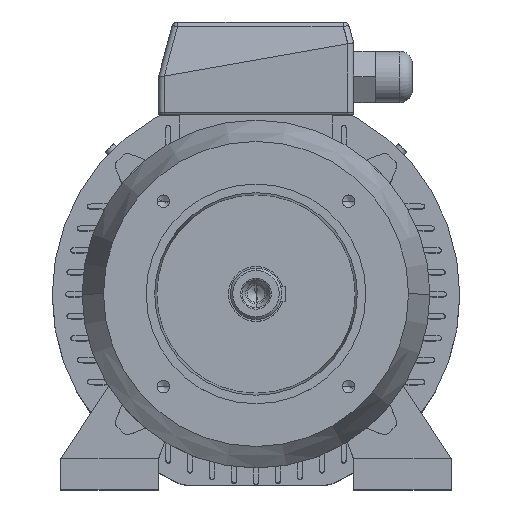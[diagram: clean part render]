
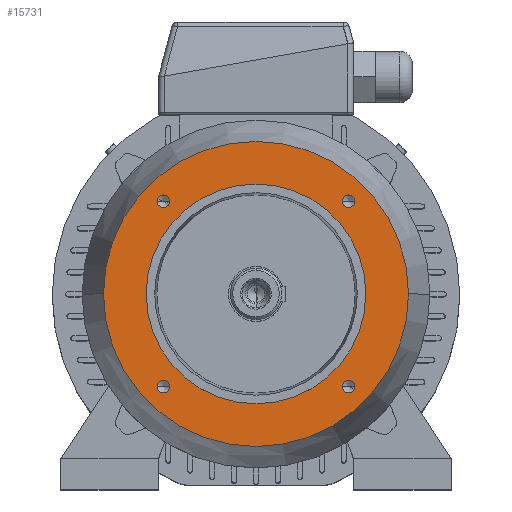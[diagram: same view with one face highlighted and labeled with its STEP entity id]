
A CAD part, top view. The second image highlights one B-rep face of the part: STEP entity #15731.
In plain terms, the highlighted planar face has unit normal (0, 0, 1).
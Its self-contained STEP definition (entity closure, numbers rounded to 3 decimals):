
#627 = VERTEX_POINT ( 'NONE', #10991 ) ;
#670 = VERTEX_POINT ( 'NONE', #11009 ) ;
#1187 = CIRCLE ( 'NONE', #1188, 5.1 ) ;
#1188 = AXIS2_PLACEMENT_3D ( 'NONE', #1189, #1190, #1191 ) ;
#1189 = CARTESIAN_POINT ( 'NONE',  ( 76.014, 76.014, 75. ) ) ;
#1190 = DIRECTION ( 'NONE',  ( 0., 0., 1. ) ) ;
#1191 = DIRECTION ( 'NONE',  ( 1., 0., 0. ) ) ;
#1368 = CIRCLE ( 'NONE', #1369, 5.1 ) ;
#1369 = AXIS2_PLACEMENT_3D ( 'NONE', #1370, #1371, #1372 ) ;
#1370 = CARTESIAN_POINT ( 'NONE',  ( 76.014, -76.014, 75. ) ) ;
#1371 = DIRECTION ( 'NONE',  ( 0., 0., 1. ) ) ;
#1372 = DIRECTION ( 'NONE',  ( 1., 0., 0. ) ) ;
#1389 = CIRCLE ( 'NONE', #1390, 5.1 ) ;
#1390 = AXIS2_PLACEMENT_3D ( 'NONE', #1391, #1392, #1393 ) ;
#1391 = CARTESIAN_POINT ( 'NONE',  ( -76.014, 76.014, 75. ) ) ;
#1392 = DIRECTION ( 'NONE',  ( 0., 0., 1. ) ) ;
#1393 = DIRECTION ( 'NONE',  ( 1., 0., 0. ) ) ;
#1467 = VERTEX_POINT ( 'NONE', #11398 ) ;
#1548 = VERTEX_POINT ( 'NONE', #11432 ) ;
#1729 = VERTEX_POINT ( 'NONE', #11543 ) ;
#1812 = EDGE_CURVE ( 'NONE', #2817, #1548, #11566, .T. ) ;
#1974 = EDGE_CURVE ( 'NONE', #1729, #1467, #11632, .T. ) ;
#2492 = FACE_BOUND ( 'NONE', #2536, .T. ) ;
#2493 = FACE_BOUND ( 'NONE', #9758, .T. ) ;
#2494 = FACE_BOUND ( 'NONE', #10412, .T. ) ;
#2495 = FACE_BOUND ( 'NONE', #9185, .T. ) ;
#2500 = FACE_BOUND ( 'NONE', #9543, .T. ) ;
#2501 = FACE_OUTER_BOUND ( 'NONE', #10084, .T. ) ;
#2502 = PLANE ( 'NONE',  #2503 ) ;
#2503 = AXIS2_PLACEMENT_3D ( 'NONE', #2504, #2505, #2506 ) ;
#2504 = CARTESIAN_POINT ( 'NONE',  ( 0., 125., 75. ) ) ;
#2505 = DIRECTION ( 'NONE',  ( 0., 0., -1. ) ) ;
#2506 = DIRECTION ( 'NONE',  ( -1., 0., 0. ) ) ;
#2536 = EDGE_LOOP ( 'NONE', ( #9525, #8302 ) ) ;
#2817 = VERTEX_POINT ( 'NONE', #14089 ) ;
#2911 = CIRCLE ( 'NONE', #2915, 5.1 ) ;
#2915 = AXIS2_PLACEMENT_3D ( 'NONE', #2916, #2917, #2918 ) ;
#2916 = CARTESIAN_POINT ( 'NONE',  ( 76.014, 76.014, 75. ) ) ;
#2917 = DIRECTION ( 'NONE',  ( 0., 0., 1. ) ) ;
#2918 = DIRECTION ( 'NONE',  ( 1., 0., 0. ) ) ;
#3754 = EDGE_CURVE ( 'NONE', #1467, #1729, #14583, .T. ) ;
#3894 = CARTESIAN_POINT ( 'NONE',  ( -70.914, -76.014, 75. ) ) ;
#4030 = CIRCLE ( 'NONE', #4031, 5.1 ) ;
#4031 = AXIS2_PLACEMENT_3D ( 'NONE', #4032, #4033, #4034 ) ;
#4032 = CARTESIAN_POINT ( 'NONE',  ( -76.014, -76.014, 75. ) ) ;
#4033 = DIRECTION ( 'NONE',  ( 0., 0., 1. ) ) ;
#4034 = DIRECTION ( 'NONE',  ( 1., 0., 0. ) ) ;
#5080 = ORIENTED_EDGE ( 'NONE', *, *, #1974, .T. ) ;
#6653 = CIRCLE ( 'NONE', #6659, 5.1 ) ;
#6659 = AXIS2_PLACEMENT_3D ( 'NONE', #6660, #6661, #6662 ) ;
#6660 = CARTESIAN_POINT ( 'NONE',  ( -76.014, -76.014, 75. ) ) ;
#6661 = DIRECTION ( 'NONE',  ( 0., 0., 1. ) ) ;
#6662 = DIRECTION ( 'NONE',  ( 1., 0., 0. ) ) ;
#7737 = CARTESIAN_POINT ( 'NONE',  ( -70.914, 76.014, 75. ) ) ;
#7893 = CIRCLE ( 'NONE', #7894, 5.1 ) ;
#7894 = AXIS2_PLACEMENT_3D ( 'NONE', #7895, #7901, #7902 ) ;
#7895 = CARTESIAN_POINT ( 'NONE',  ( -76.014, 76.014, 75. ) ) ;
#7901 = DIRECTION ( 'NONE',  ( 0., 0., 1. ) ) ;
#7902 = DIRECTION ( 'NONE',  ( 1., 0., 0. ) ) ;
#7954 = CIRCLE ( 'NONE', #7955, 90. ) ;
#7955 = AXIS2_PLACEMENT_3D ( 'NONE', #7956, #7957, #7958 ) ;
#7956 = CARTESIAN_POINT ( 'NONE',  ( 0., 0., 75. ) ) ;
#7957 = DIRECTION ( 'NONE',  ( 0., 0., 1. ) ) ;
#7958 = DIRECTION ( 'NONE',  ( 1., 0., 0. ) ) ;
#7965 = EDGE_CURVE ( 'NONE', #627, #670, #1187, .T. ) ;
#8074 = ORIENTED_EDGE ( 'NONE', *, *, #7965, .F. ) ;
#8179 = CARTESIAN_POINT ( 'NONE',  ( -81.114, -76.014, 75. ) ) ;
#8220 = CARTESIAN_POINT ( 'NONE',  ( -90., 0., 75. ) ) ;
#8302 = ORIENTED_EDGE ( 'NONE', *, *, #13162, .F. ) ;
#8332 = CARTESIAN_POINT ( 'NONE',  ( 90., 0., 75. ) ) ;
#8363 = EDGE_CURVE ( 'NONE', #1548, #2817, #1368, .T. ) ;
#8405 = EDGE_CURVE ( 'NONE', #12902, #14166, #1389, .T. ) ;
#8435 = CARTESIAN_POINT ( 'NONE',  ( -81.114, 76.014, 75. ) ) ;
#8471 = CIRCLE ( 'NONE', #8472, 90. ) ;
#8472 = AXIS2_PLACEMENT_3D ( 'NONE', #8473, #8474, #8475 ) ;
#8473 = CARTESIAN_POINT ( 'NONE',  ( 0., 0., 75. ) ) ;
#8474 = DIRECTION ( 'NONE',  ( 0., 0., 1. ) ) ;
#8475 = DIRECTION ( 'NONE',  ( 1., 0., 0. ) ) ;
#8777 = ORIENTED_EDGE ( 'NONE', *, *, #8363, .F. ) ;
#9185 = EDGE_LOOP ( 'NONE', ( #8777, #9607 ) ) ;
#9234 = ORIENTED_EDGE ( 'NONE', *, *, #9914, .F. ) ;
#9270 = ORIENTED_EDGE ( 'NONE', *, *, #16091, .F. ) ;
#9377 = ORIENTED_EDGE ( 'NONE', *, *, #14230, .F. ) ;
#9525 = ORIENTED_EDGE ( 'NONE', *, *, #8405, .F. ) ;
#9543 = EDGE_LOOP ( 'NONE', ( #9377, #10131 ) ) ;
#9607 = ORIENTED_EDGE ( 'NONE', *, *, #1812, .F. ) ;
#9758 = EDGE_LOOP ( 'NONE', ( #8074, #9270 ) ) ;
#9869 = VERTEX_POINT ( 'NONE', #3894 ) ;
#9914 = EDGE_CURVE ( 'NONE', #13639, #9869, #4030, .T. ) ;
#9942 = ORIENTED_EDGE ( 'NONE', *, *, #3754, .T. ) ;
#10084 = EDGE_LOOP ( 'NONE', ( #9942, #5080 ) ) ;
#10131 = ORIENTED_EDGE ( 'NONE', *, *, #13278, .F. ) ;
#10412 = EDGE_LOOP ( 'NONE', ( #11089, #9234 ) ) ;
#10772 = EDGE_CURVE ( 'NONE', #9869, #13639, #6653, .T. ) ;
#10991 = CARTESIAN_POINT ( 'NONE',  ( 81.114, 76.014, 75. ) ) ;
#11009 = CARTESIAN_POINT ( 'NONE',  ( 70.914, 76.014, 75. ) ) ;
#11089 = ORIENTED_EDGE ( 'NONE', *, *, #10772, .F. ) ;
#11398 = CARTESIAN_POINT ( 'NONE',  ( -125., 0., 75. ) ) ;
#11432 = CARTESIAN_POINT ( 'NONE',  ( 81.114, -76.014, 75. ) ) ;
#11543 = CARTESIAN_POINT ( 'NONE',  ( 125., 0., 75. ) ) ;
#11566 = CIRCLE ( 'NONE', #11567, 5.1 ) ;
#11567 = AXIS2_PLACEMENT_3D ( 'NONE', #11568, #11569, #11570 ) ;
#11568 = CARTESIAN_POINT ( 'NONE',  ( 76.014, -76.014, 75. ) ) ;
#11569 = DIRECTION ( 'NONE',  ( 0., 0., 1. ) ) ;
#11570 = DIRECTION ( 'NONE',  ( 1., 0., 0. ) ) ;
#11632 = CIRCLE ( 'NONE', #11633, 125. ) ;
#11633 = AXIS2_PLACEMENT_3D ( 'NONE', #11634, #11635, #11636 ) ;
#11634 = CARTESIAN_POINT ( 'NONE',  ( 0., 0., 75. ) ) ;
#11635 = DIRECTION ( 'NONE',  ( 0., 0., 1. ) ) ;
#11636 = DIRECTION ( 'NONE',  ( 1., 0., 0. ) ) ;
#12902 = VERTEX_POINT ( 'NONE', #7737 ) ;
#13162 = EDGE_CURVE ( 'NONE', #14166, #12902, #7893, .T. ) ;
#13278 = EDGE_CURVE ( 'NONE', #13724, #13970, #7954, .T. ) ;
#13639 = VERTEX_POINT ( 'NONE', #8179 ) ;
#13724 = VERTEX_POINT ( 'NONE', #8220 ) ;
#13970 = VERTEX_POINT ( 'NONE', #8332 ) ;
#14089 = CARTESIAN_POINT ( 'NONE',  ( 70.914, -76.014, 75. ) ) ;
#14166 = VERTEX_POINT ( 'NONE', #8435 ) ;
#14230 = EDGE_CURVE ( 'NONE', #13970, #13724, #8471, .T. ) ;
#14583 = CIRCLE ( 'NONE', #14584, 125. ) ;
#14584 = AXIS2_PLACEMENT_3D ( 'NONE', #14585, #14586, #14587 ) ;
#14585 = CARTESIAN_POINT ( 'NONE',  ( 0., 0., 75. ) ) ;
#14586 = DIRECTION ( 'NONE',  ( 0., 0., 1. ) ) ;
#14587 = DIRECTION ( 'NONE',  ( 1., 0., 0. ) ) ;
#15731 = ADVANCED_FACE ( 'NONE', ( #2492, #2493, #2494, #2495, #2500, #2501 ), #2502, .F. ) ;
#16091 = EDGE_CURVE ( 'NONE', #670, #627, #2911, .T. ) ;
